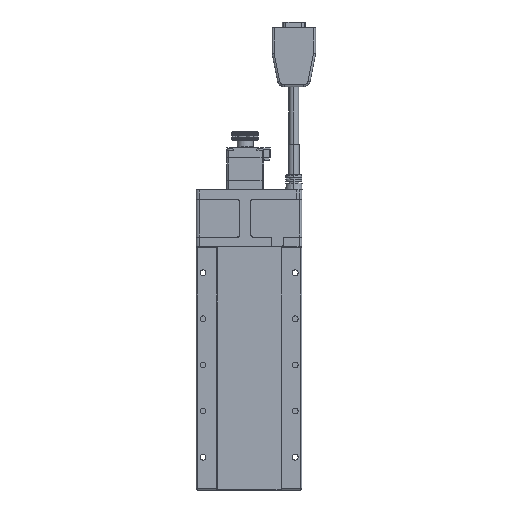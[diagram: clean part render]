
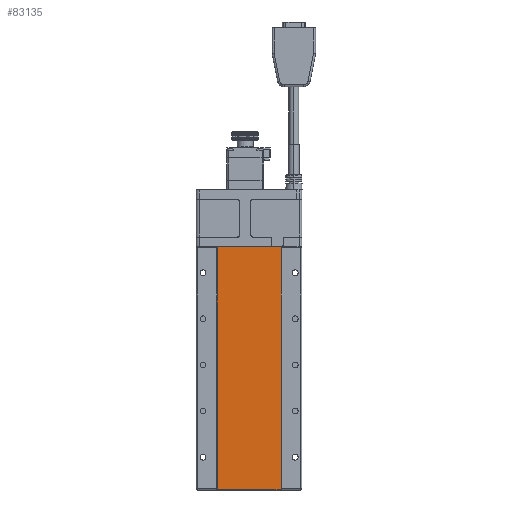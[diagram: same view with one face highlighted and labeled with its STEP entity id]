
A CAD part, front view. The second image highlights one B-rep face of the part: STEP entity #83135.
In plain terms, the highlighted planar face has unit normal (0, -1, 0).
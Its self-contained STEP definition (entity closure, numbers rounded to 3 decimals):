
#5416 = LINE ( 'NONE', #89145, #61726 ) ;
#5842 = LINE ( 'NONE', #82314, #54319 ) ;
#7863 = DIRECTION ( 'NONE',  ( 0., 0., 1. ) ) ;
#8298 = AXIS2_PLACEMENT_3D ( 'NONE', #42396, #97509, #138341 ) ;
#12472 = VECTOR ( 'NONE', #7863, 1000. ) ;
#14609 = CARTESIAN_POINT ( 'NONE',  ( 24.3, 0.5, 0.2 ) ) ;
#18583 = LINE ( 'NONE', #62138, #12472 ) ;
#21211 = VECTOR ( 'NONE', #92790, 1000. ) ;
#25575 = CARTESIAN_POINT ( 'NONE',  ( -24.3, 0.5, 0.2 ) ) ;
#28427 = ORIENTED_EDGE ( 'NONE', *, *, #118218, .T. ) ;
#31198 = ORIENTED_EDGE ( 'NONE', *, *, #70403, .T. ) ;
#42396 = CARTESIAN_POINT ( 'NONE',  ( -24.3, 0.5, 184.8 ) ) ;
#50272 = VERTEX_POINT ( 'NONE', #14609 ) ;
#54319 = VECTOR ( 'NONE', #127416, 1000. ) ;
#58448 = ORIENTED_EDGE ( 'NONE', *, *, #112628, .T. ) ;
#60918 = EDGE_LOOP ( 'NONE', ( #70666, #31198, #28427, #58448 ) ) ;
#61726 = VECTOR ( 'NONE', #132780, 1000. ) ;
#62138 = CARTESIAN_POINT ( 'NONE',  ( 24.3, 0.5, 0.2 ) ) ;
#63650 = CARTESIAN_POINT ( 'NONE',  ( -24.3, 0.5, 0.2 ) ) ;
#68521 = CARTESIAN_POINT ( 'NONE',  ( 24.3, 0.5, 184.8 ) ) ;
#68668 = VERTEX_POINT ( 'NONE', #63650 ) ;
#70403 = EDGE_CURVE ( 'NONE', #68668, #50272, #114940, .T. ) ;
#70666 = ORIENTED_EDGE ( 'NONE', *, *, #125166, .T. ) ;
#82314 = CARTESIAN_POINT ( 'NONE',  ( -24.3, 0.5, 0.2 ) ) ;
#83135 = ADVANCED_FACE ( 'NONE', ( #126919 ), #94679, .F. ) ;
#85560 = CARTESIAN_POINT ( 'NONE',  ( -24.3, 0.5, 184.8 ) ) ;
#89145 = CARTESIAN_POINT ( 'NONE',  ( -24.3, 0.5, 184.8 ) ) ;
#92790 = DIRECTION ( 'NONE',  ( 1., 0., 0. ) ) ;
#94679 = PLANE ( 'NONE',  #8298 ) ;
#96114 = VERTEX_POINT ( 'NONE', #85560 ) ;
#97509 = DIRECTION ( 'NONE',  ( 0., 1., 0. ) ) ;
#112628 = EDGE_CURVE ( 'NONE', #121464, #96114, #5416, .T. ) ;
#114940 = LINE ( 'NONE', #25575, #21211 ) ;
#118218 = EDGE_CURVE ( 'NONE', #50272, #121464, #18583, .T. ) ;
#121464 = VERTEX_POINT ( 'NONE', #68521 ) ;
#125166 = EDGE_CURVE ( 'NONE', #96114, #68668, #5842, .T. ) ;
#126919 = FACE_OUTER_BOUND ( 'NONE', #60918, .T. ) ;
#127416 = DIRECTION ( 'NONE',  ( 0., 0., -1. ) ) ;
#132780 = DIRECTION ( 'NONE',  ( -1., 0., 0. ) ) ;
#138341 = DIRECTION ( 'NONE',  ( -1., 0., 0. ) ) ;
